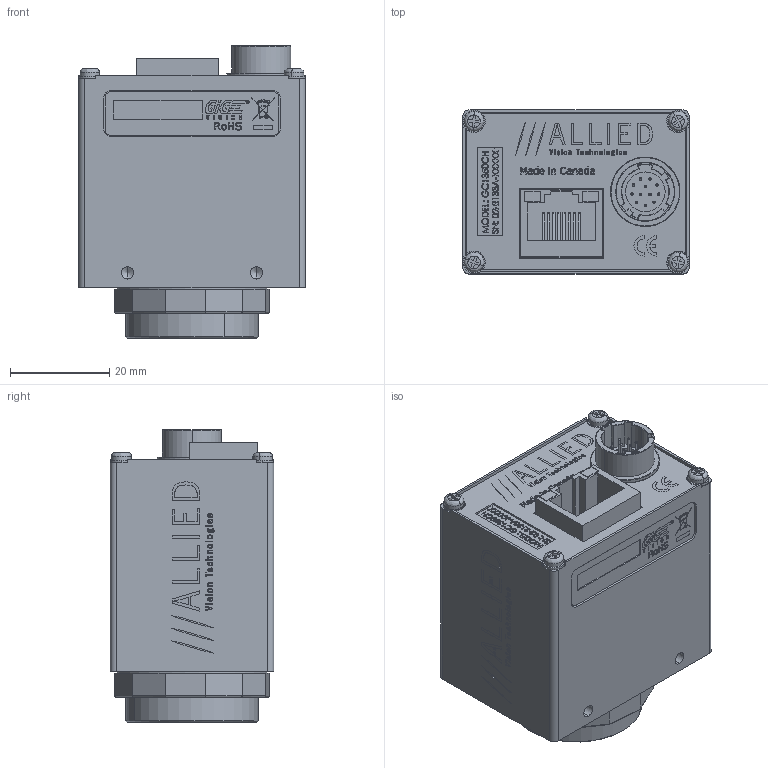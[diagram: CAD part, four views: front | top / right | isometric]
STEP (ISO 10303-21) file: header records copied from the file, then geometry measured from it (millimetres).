
FILE_DESCRIPTION (( 'STEP AP214' ), '1' );
FILE_NAME ('GC1350CH.STEP', '2013-07-31T19:01:55', ( '' ), ( '' ), 'SwSTEP 2.0', 'SolidWorks 2013', '' );
FILE_SCHEMA (( 'AUTOMOTIVE_DESIGN' ));
Length unit declared in the file: millimetre
Products named in the file (22): Sony ICX205 WINDOW; Sony ICX205 BODY; 110045B-EC-CCD DUST SHIELD GASKET; 740075A-GC1350CH LABEL PRINT; 110042C GC-CCD FRONT_Finished with logo; 140013-washer spring lock M2; 740123A-GC MAC LABEL; 140017-SCREW PAN M2x4 SS; 110043A GC BACK PLATE; 260034-HIROSE HR10A-10R-12PB; 110043A GC BACK PLATE - WO HW; 110003AC-CV CMOUNT RING; GC1350CH; 100097A-IR FILTER ASSEMBLY 0.75 INCH; 110054AB-IR FILTER SUPPORT; 440002-IR CUT FILTER 22MM DIA; 740032B-GC MAIN LABEL; 200047A-A GC INTERFACE PCB ASSY; 260033-AMPHENOL RJHS-3381; 110031A-B EC-CCD LOCKING RING; 140023-SCREW SKT CAP M2x10 SS; 220051-SONY ICX205AK
Assembly tree (30 placements, depth 3):
  GC1350CH
    260034-HIROSE HR10A-10R-12PB
    140017-SCREW PAN M2x4 SS  x4
    740123A-GC MAC LABEL
    140013-washer spring lock M2  x6
    110042C GC-CCD FRONT_Finished with logo
    740075A-GC1350CH LABEL PRINT
    110045B-EC-CCD DUST SHIELD GASKET
    220051-SONY ICX205AK
      Sony ICX205 BODY
      Sony ICX205 WINDOW
    140023-SCREW SKT CAP M2x10 SS  x2
    110031A-B EC-CCD LOCKING RING
    200047A-A GC INTERFACE PCB ASSY
      260033-AMPHENOL RJHS-3381
    740032B-GC MAIN LABEL
    100097A-IR FILTER ASSEMBLY 0.75 INCH
      440002-IR CUT FILTER 22MM DIA
      110054AB-IR FILTER SUPPORT
    110003AC-CV CMOUNT RING
    110043A GC BACK PLATE
      110043A GC BACK PLATE - WO HW
Bounding box: 45.72 x 33.02 x 58.96 mm (x, y, z)
Volume: 23215.5 mm3; surface area: 33865 mm2
Topology: 26 solids, 26 shells, 3288 faces, 8646 edges, 5622 vertices
Faces by surface type: plane 1855, bspline 935, cylinder 304, cone 194
Entity records: 165723 total; most frequent: CARTESIAN_POINT 58378, ORIENTED_EDGE 16468, DIRECTION 11668, EDGE_CURVE 8234, LINE 5634, VECTOR 5634, VERTEX_POINT 5404, EDGE_LOOP 3484
